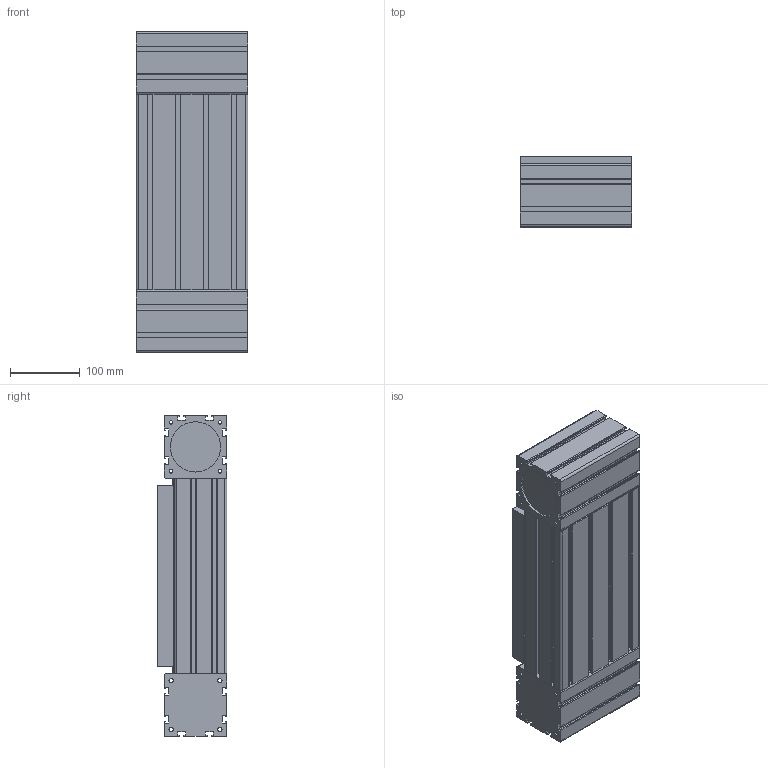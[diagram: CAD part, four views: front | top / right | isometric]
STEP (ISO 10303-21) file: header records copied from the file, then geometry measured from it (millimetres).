
FILE_DESCRIPTION((''),'2;1');
FILE_NAME('C:\Users\disegnatore3\Desktop\alberto_3d\MODELLI PER SITO WEB\ASSI\ML160\ML160PLUSC-24\FORMATO CAD\ML160PLUSC-24.stp','2016-09-12T15:14:05',('disegnatore3'),(''),'Autodesk Inventor 2012','Autodesk Inventor 2012','');
FILE_SCHEMA(('AUTOMOTIVE_DESIGN { 1 0 10303 214 1 1 1 1 }'));
Length unit declared in the file: millimetre
Products named in the file (5): ML160PLUSC-24; PR160PLUS; TM160; TR160; CR160PLUS-24
Assembly tree (4 placements, depth 2):
  ML160PLUSC-24
    PR160PLUS
    TM160
    TR160
    CR160PLUS-24
Bounding box: 160 x 100 x 460 mm (x, y, z)
Volume: 6014143 mm3; surface area: 649680.6 mm2
Topology: 4 solids, 44 shells, 2027 faces, 5735 edges, 3806 vertices
Faces by surface type: plane 1417, cylinder 422, cone 136, torus 36, bspline 8, sphere 8
Full cylindrical faces by diameter (mm): 0.5 x4, 2 x4, 2.5 x16, 3 x16, 4.2 x16, 5 x4, 5.2 x2, 6 x52, 6.4 x8, 6.647 x15, 7.3 x8, 7.847 x4, 9.8 x4, 72 x2
Entity records: 64805 total; most frequent: CARTESIAN_POINT 13886, ORIENTED_EDGE 10588, DIRECTION 9492, EDGE_CURVE 5294, VERTEX_POINT 3636, VECTOR 3488, LINE 3488, AXIS2_PLACEMENT_3D 3002
